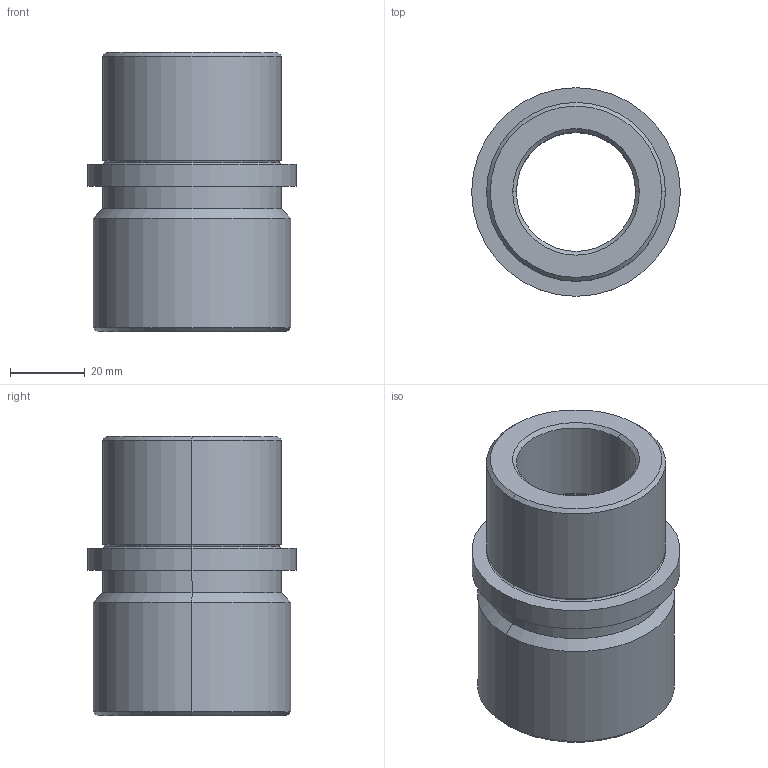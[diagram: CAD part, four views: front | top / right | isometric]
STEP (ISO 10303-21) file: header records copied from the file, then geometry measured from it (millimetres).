
FILE_DESCRIPTION (( 'STEP AP214' ), '1' );
FILE_NAME ('Casquillo SB500-32-75.STEP', '2018-11-27T08:05:26', ( '' ), ( '' ), 'SwSTEP 2.0', 'SolidWorks 2018', '' );
FILE_SCHEMA (( 'AUTOMOTIVE_DESIGN' ));
Length unit declared in the file: millimetre
Products named in the file (1): Casquillo SB500-32-75
Bounding box: 56 x 56 x 75 mm (x, y, z)
Volume: 91564 mm3; surface area: 23275.2 mm2
Topology: 1 solids, 1 shells, 40 faces, 80 edges, 44 vertices
Faces by surface type: cylinder 14, torus 12, cone 10, plane 4
Entity records: 1074 total; most frequent: DIRECTION 218, CARTESIAN_POINT 165, ORIENTED_EDGE 160, AXIS2_PLACEMENT_3D 97, EDGE_CURVE 80, CIRCLE 56, VERTEX_POINT 44, EDGE_LOOP 44
